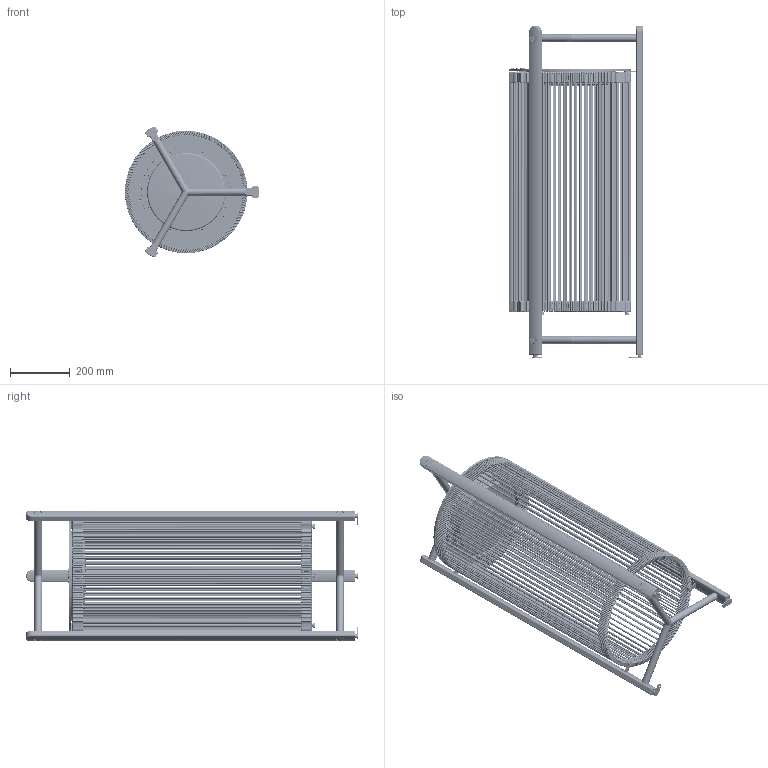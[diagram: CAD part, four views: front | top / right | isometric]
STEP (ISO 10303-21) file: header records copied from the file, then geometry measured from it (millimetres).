
FILE_DESCRIPTION (( 'STEP AP203' ), '1' );
FILE_NAME ('KANDÓ M-111-R 37801324xxx.STEP', '2023-07-26T13:56:42', ( '' ), ( '' ), 'SwSTEP 2.0', 'SolidWorks 2019', '' );
FILE_SCHEMA (( 'CONFIG_CONTROL_DESIGN' ));
Length unit declared in the file: millimetre
Products named in the file (40): 000-378_032; 000-SUB-378 SOLDADURA SOPORTE PANTALLA; 000-D7985-45A2; 000-378-XXX PAQUETE OPTICO BATERIA; 000-378_413; 000-378-400; 000-378_048; 000-378_101; 000-378-401; 000-378_029; 000-378_060; 000-SUB-378 MASTIL 1100 LOGO; 000-TRAMA PANTALLA 800; 000-378_028; 000-378_026; 000-378_023; 000-378_044; 000-SUB-378 MASTIL 1100 SIMPLE; 000-insert_41_tbh080h130 m8x13; 000-D7985-48A2; 000-SUB-378 ASA Y SOPORTE INFERIOR; 000-378_027; 000-378_037; 000-378-406; 000-8845.12; 000-378_031; 000-D913-36A2; 000-378-411; 000-insert_41_tbh050h100 m5x10; 000-378_034; 000-D7991-58; 000-378_033; 000-378_036; KANDÓ M-111-R  37801324xxx
Assembly tree (105 placements, depth 4):
  KANDÓ M-111-R  37801324xxx
    000-SUB-378 MASTIL 1100 LOGO
      000-378_027
      000-SUB-378 SOLDADURA SOPORTE PANTALLA
        000-378_029
        000-378_031
      000-SUB-378 SOLDADURA SOPORTE PANTALLA
        000-378_029
        000-378_031
      000-insert_41_tbh050h100 m5x10  x4
      000-insert_41_tbh080h130 m8x13
      000-D7991-58  x4
      000-378_028
      000-378_023
      000-378_032
      000-378_036  x2
    000-SUB-378 MASTIL 1100 SIMPLE
      000-378_026
      000-SUB-378 SOLDADURA SOPORTE PANTALLA
        000-378_029
        000-378_031
      000-SUB-378 SOLDADURA SOPORTE PANTALLA
        000-378_029
        000-378_031
      000-insert_41_tbh050h100 m5x10  x4
      000-insert_41_tbh080h130 m8x13
      000-D7991-58  x4
      000-378_028
      000-378_032
      000-378_036  x2
    000-SUB-378 MASTIL 1100 SIMPLE
      000-378_026
      000-SUB-378 SOLDADURA SOPORTE PANTALLA
        000-378_029
        000-378_031
      000-SUB-378 SOLDADURA SOPORTE PANTALLA
        000-378_029
        000-378_031
      000-insert_41_tbh050h100 m5x10  x4
      000-insert_41_tbh080h130 m8x13
      000-D7991-58  x4
      000-378_028
      000-378_032
      000-378_036  x2
    000-SUB-378 ASA Y SOPORTE INFERIOR
      000-378_033
      000-378_034  x3
      000-378_037  x3
    000-378_044  x3
    000-378_037  x3
    000-378_048
    000-378_060  x3
    000-D913-36A2  x3
    000-378_413  x3
    000-378_101
    000-TRAMA PANTALLA 800
    000-378-XXX PAQUETE OPTICO BATERIA
      000-378-400
      000-378-411
      000-378-401
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Bounding box: 449.75 x 1110.04 x 437.37 mm (x, y, z)
Volume: 6980664.1 mm3; surface area: 3570788.9 mm2
Topology: 464 solids, 464 shells, 13147 faces, 33525 edges, 19464 vertices
Faces by surface type: cylinder 5544, plane 3700, sphere 2140, cone 1391, bspline 302, torus 70
Entity records: 288321 total; most frequent: CARTESIAN_POINT 86887, ORIENTED_EDGE 42310, DIRECTION 41272, EDGE_CURVE 21155, AXIS2_PLACEMENT_3D 16918, VERTEX_POINT 12522, EDGE_LOOP 9285, FACE_OUTER_BOUND 8961
